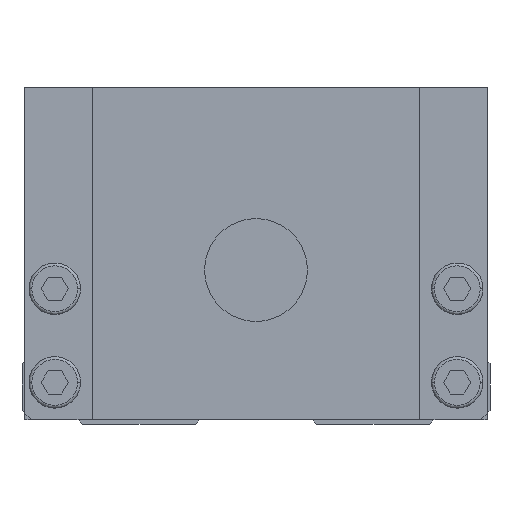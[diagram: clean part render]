
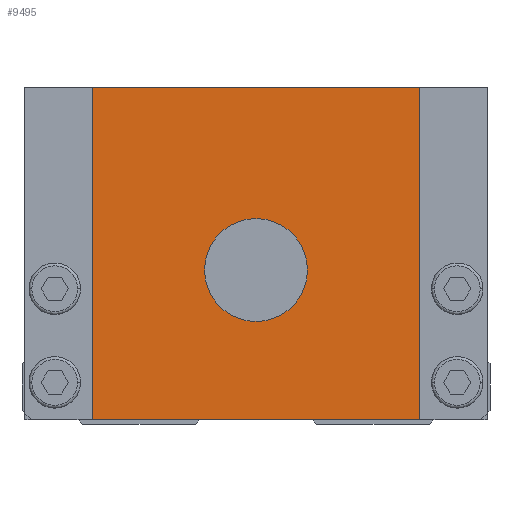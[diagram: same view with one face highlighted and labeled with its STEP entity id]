
A CAD part, front view. The second image highlights one B-rep face of the part: STEP entity #9495.
In plain terms, the highlighted planar face has unit normal (0, -1, 0).
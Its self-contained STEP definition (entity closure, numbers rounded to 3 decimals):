
#5203=EDGE_CURVE('',#11875,#6873,#14669,.T.);
#6531=VERTEX_POINT('',#16140);
#6873=VERTEX_POINT('',#16521);
#7309=EDGE_CURVE('',#6531,#8903,#17016,.T.);
#7869=EDGE_CURVE('',#6873,#7981,#17654,.T.);
#7981=VERTEX_POINT('',#17781);
#8157=EDGE_CURVE('',#14079,#11875,#17977,.T.);
#8903=VERTEX_POINT('',#18793);
#9495=ADVANCED_FACE('',(#19469,#19470),#19471,.F.);
#11001=EDGE_CURVE('',#8903,#6531,#21131,.T.);
#11373=EDGE_CURVE('',#14079,#7981,#21539,.T.);
#11875=VERTEX_POINT('',#22092);
#14079=VERTEX_POINT('',#24525);
#14669=LINE('',#25419,#25420);
#16140=CARTESIAN_POINT('',(5.5,0.0,16.5));
#16521=CARTESIAN_POINT('',(17.5,0.0,0.5));
#17016=CIRCLE('',#28871,5.5);
#17654=LINE('',#29707,#29708);
#17781=CARTESIAN_POINT('',(-17.5,0.0,0.5));
#17977=LINE('',#30187,#30188);
#18793=CARTESIAN_POINT('',(-5.5,0.0,16.5));
#19469=FACE_BOUND('',#32236,.T.);
#19470=FACE_OUTER_BOUND('',#32237,.T.);
#19471=PLANE('',#32238);
#21131=CIRCLE('',#34662,5.5);
#21539=LINE('',#35280,#35281);
#22092=CARTESIAN_POINT('',(17.5,0.0,36.0));
#24525=CARTESIAN_POINT('',(-17.5,0.0,36.0));
#25419=CARTESIAN_POINT('',(17.5,0.0,18.25));
#25420=VECTOR('',#40388,1.0);
#28871=AXIS2_PLACEMENT_3D('',#43154,#43155,#43156);
#29707=CARTESIAN_POINT('',(0.0,0.0,0.5));
#29708=VECTOR('',#43931,1.0);
#30187=CARTESIAN_POINT('',(0.0,0.0,36.0));
#30188=VECTOR('',#44312,1.0);
#32236=EDGE_LOOP('',(#46056,#46057));
#32237=EDGE_LOOP('',(#46058,#46059,#46060,#46061));
#32238=AXIS2_PLACEMENT_3D('',#46062,#46063,#46064);
#34662=AXIS2_PLACEMENT_3D('',#47922,#47923,#47924);
#35280=CARTESIAN_POINT('',(-17.5,0.0,18.25));
#35281=VECTOR('',#48355,1.0);
#40388=DIRECTION('',(0.0,0.0,-1.0));
#43154=CARTESIAN_POINT('',(0.0,0.0,16.5));
#43155=DIRECTION('',(-0.0,1.0,0.0));
#43156=DIRECTION('',(1.0,0.0,0.0));
#43931=DIRECTION('',(-1.0,0.0,0.0));
#44312=DIRECTION('',(1.0,0.0,0.0));
#46056=ORIENTED_EDGE('',*,*,#7309,.T.);
#46057=ORIENTED_EDGE('',*,*,#11001,.T.);
#46058=ORIENTED_EDGE('',*,*,#11373,.T.);
#46059=ORIENTED_EDGE('',*,*,#7869,.F.);
#46060=ORIENTED_EDGE('',*,*,#5203,.F.);
#46061=ORIENTED_EDGE('',*,*,#8157,.F.);
#46062=CARTESIAN_POINT('',(0.0,0.0,18.25));
#46063=DIRECTION('',(0.0,1.0,0.0));
#46064=DIRECTION('',(0.0,0.0,1.0));
#47922=CARTESIAN_POINT('',(0.0,0.0,16.5));
#47923=DIRECTION('',(-0.0,1.0,0.0));
#47924=DIRECTION('',(1.0,0.0,0.0));
#48355=DIRECTION('',(0.0,0.0,-1.0));
